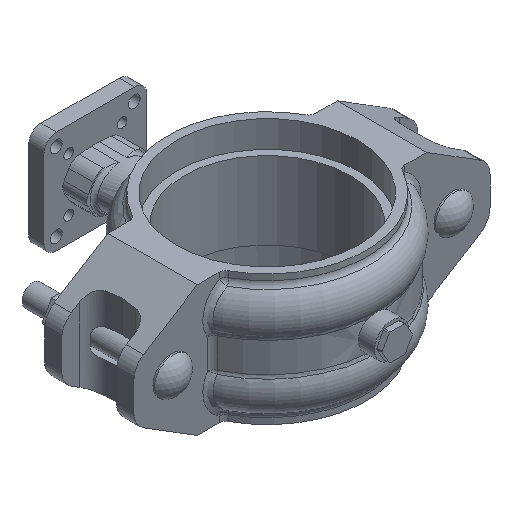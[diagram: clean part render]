
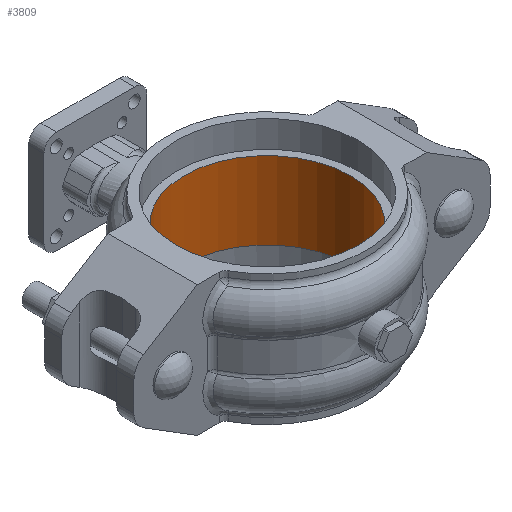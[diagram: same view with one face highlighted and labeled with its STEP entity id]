
A CAD part, isometric view. The second image highlights one B-rep face of the part: STEP entity #3809.
In plain terms, the highlighted cylindrical face has radius 76.994 mm (diameter 153.987 mm), a full revolution.
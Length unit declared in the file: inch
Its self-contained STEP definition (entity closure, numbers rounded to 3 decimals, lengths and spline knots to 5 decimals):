
#300=FACE_OUTER_BOUND('',#512,.T.);
#512=EDGE_LOOP('',(#2419,#2420,#2421,#2422));
#759=LINE('',#5593,#1035);
#1035=VECTOR('',#4470,3.03125);
#1311=CIRCLE('',#4042,3.03125);
#1312=CIRCLE('',#4043,3.03125);
#1510=VERTEX_POINT('',#5590);
#1511=VERTEX_POINT('',#5592);
#1866=EDGE_CURVE('',#1510,#1510,#1311,.T.);
#1867=EDGE_CURVE('',#1510,#1511,#759,.T.);
#1868=EDGE_CURVE('',#1511,#1511,#1312,.T.);
#2419=ORIENTED_EDGE('',*,*,#1866,.F.);
#2420=ORIENTED_EDGE('',*,*,#1867,.T.);
#2421=ORIENTED_EDGE('',*,*,#1868,.F.);
#2422=ORIENTED_EDGE('',*,*,#1867,.F.);
#3525=CYLINDRICAL_SURFACE('',#4041,3.03125);
#3809=ADVANCED_FACE('',(#300),#3525,.F.);
#4041=AXIS2_PLACEMENT_3D('',#5589,#4466,#4467);
#4042=AXIS2_PLACEMENT_3D('',#5591,#4468,#4469);
#4043=AXIS2_PLACEMENT_3D('',#5594,#4471,#4472);
#4466=DIRECTION('center_axis',(0.,0.,1.));
#4467=DIRECTION('ref_axis',(-1.,0.,0.));
#4468=DIRECTION('center_axis',(0.,0.,1.));
#4469=DIRECTION('ref_axis',(-1.,0.,0.));
#4470=DIRECTION('',(0.,0.,1.));
#4471=DIRECTION('center_axis',(0.,0.,-1.));
#4472=DIRECTION('ref_axis',(-1.,0.,0.));
#5589=CARTESIAN_POINT('Origin',(0.,0.,0.));
#5590=CARTESIAN_POINT('',(3.03125,0.,-1.41));
#5591=CARTESIAN_POINT('Origin',(0.,0.,-1.41));
#5592=CARTESIAN_POINT('',(3.03125,0.,1.41));
#5593=CARTESIAN_POINT('',(3.03125,0.,0.));
#5594=CARTESIAN_POINT('Origin',(0.,0.,1.41));
